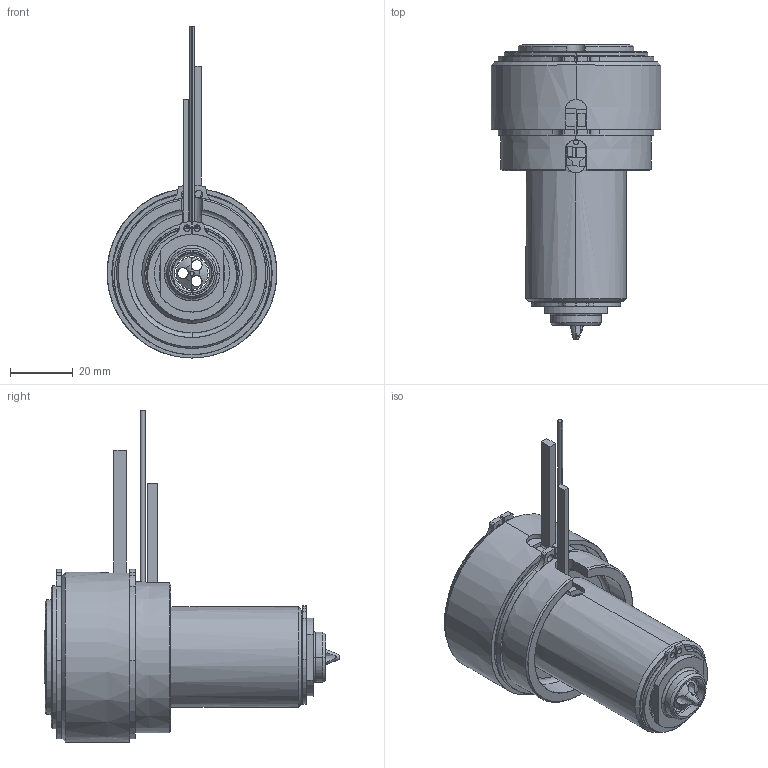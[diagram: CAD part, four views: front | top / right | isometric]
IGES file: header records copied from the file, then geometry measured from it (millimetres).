
Start section: SolidWorks IGES file using analytic representation for surfaces
Global section: file name: C:\Documents and Settings\ws-20\Desktop\TEM\UGEP5501-M-A-0 [Øf-1.36 ØC-12].IGS; native system: SolidWorks 2012; preprocessor: SolidWorks 2012; author: ws-20; date: 120427.075715; units: millimetre
Bounding box: 54 x 94.05 x 105.65 mm (x, y, z)
Surface area: 49253.2 mm2 (no closed solid volume)
Topology: 0 solids, 0 shells, 186 faces, 3696 edges, 3696 vertices
Faces by surface type: revolution 116, bspline 70
